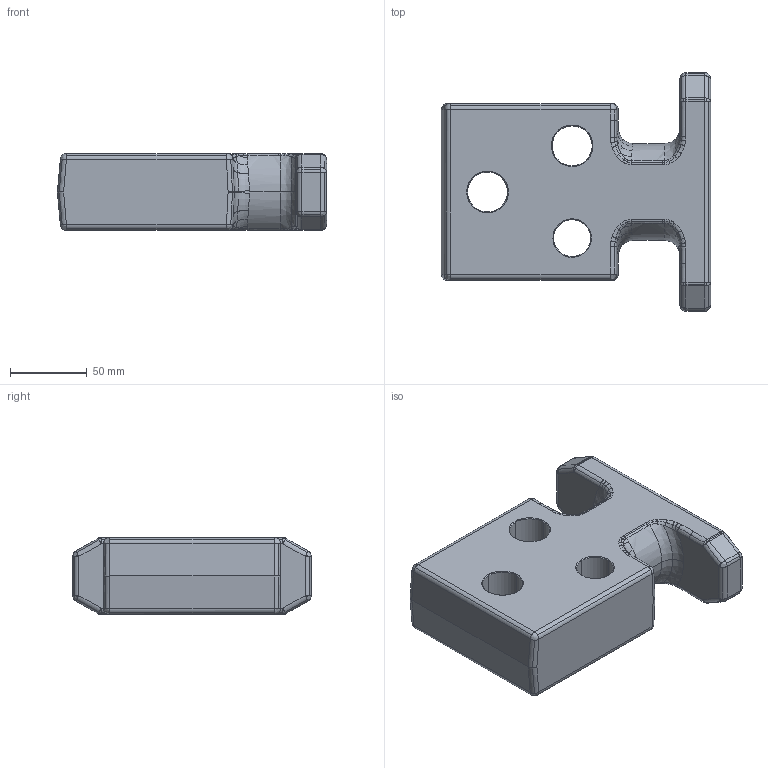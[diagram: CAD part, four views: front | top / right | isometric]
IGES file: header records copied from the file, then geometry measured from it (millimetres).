
Global section: file name: E:\UnigraphicsGraphicData\MISUMI_PRESS-PARTS\IGES\3d_chpl63_03567_r00.igs; native system: NX V5.0; preprocessor: UGS NX IGES V5.0; author: MISUMI; date: 20110105.160240; units: millimetre
Bounding box: 175 x 155 x 50 mm (x, y, z)
Surface area: 78448.7 mm2 (no closed solid volume)
Topology: 0 solids, 0 shells, 361 faces, 1905 edges, 1881 vertices
Faces by surface type: bspline 361
